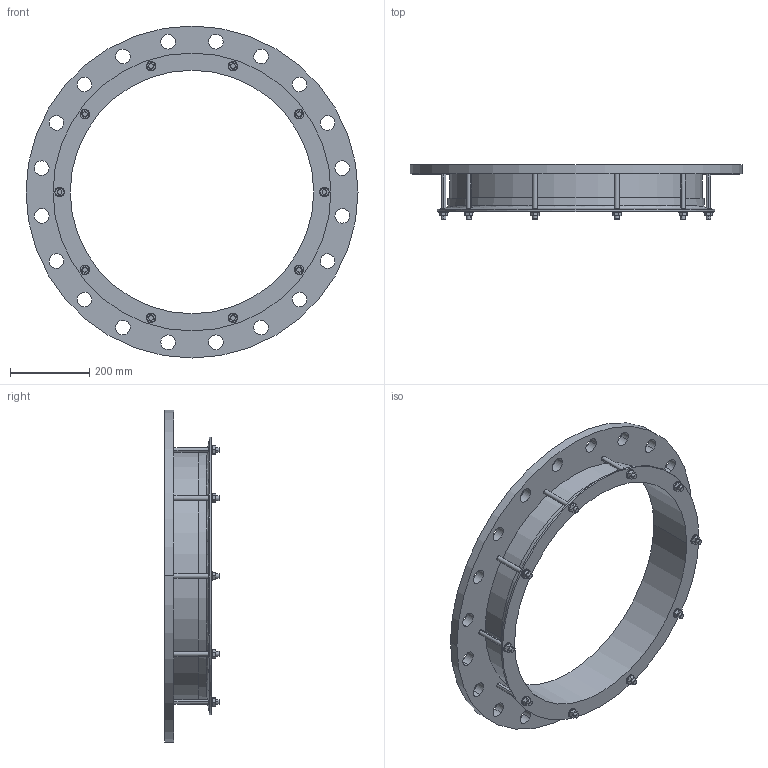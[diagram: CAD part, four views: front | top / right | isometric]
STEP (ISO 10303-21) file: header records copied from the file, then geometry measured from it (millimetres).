
FILE_DESCRIPTION((''),'2;1');
FILE_NAME('613X600PN16','2019-01-16T',('mfairey'),('Glynwed Pipe Systems'),'CREO PARAMETRIC BY PTC INC, 2016130','CREO PARAMETRIC BY PTC INC, 2016130','');
FILE_SCHEMA(('CONFIG_CONTROL_DESIGN'));
Length unit declared in the file: millimetre
Products named in the file (1): 613X600PN16
Bounding box: 840 x 137.45 x 840 mm (x, y, z)
Volume: 8362096.1 mm3; surface area: 1167978.8 mm2
Topology: 1 solids, 1 shells, 208 faces, 548 edges, 364 vertices
Faces by surface type: cylinder 108, plane 94, cone 4, torus 2
Entity records: 7202 total; most frequent: CARTESIAN_POINT 1756, DIRECTION 1132, ORIENTED_EDGE 1096, EDGE_CURVE 548, AXIS2_PLACEMENT_3D 420, VERTEX_POINT 364, VECTOR 292, LINE 292
